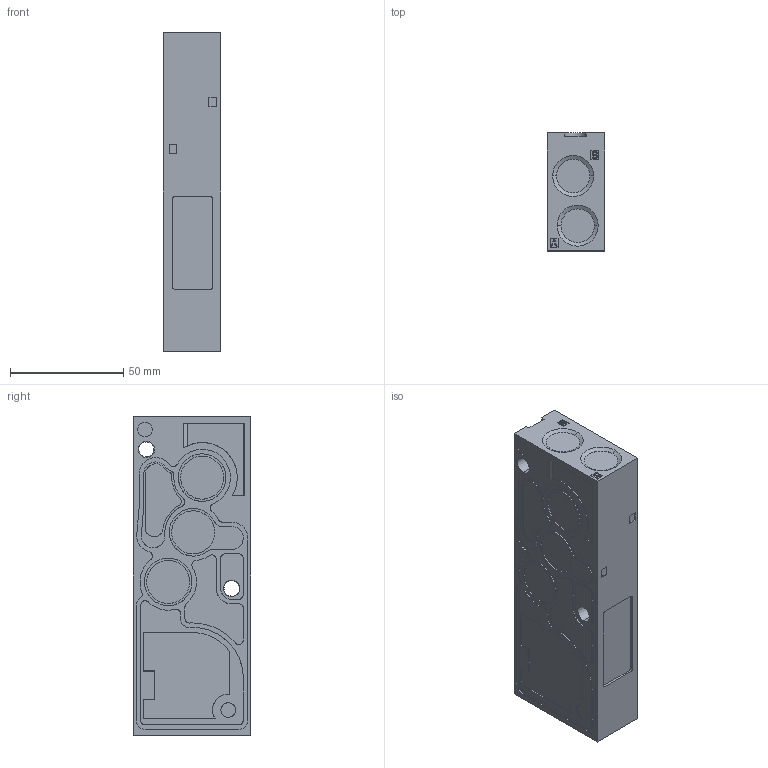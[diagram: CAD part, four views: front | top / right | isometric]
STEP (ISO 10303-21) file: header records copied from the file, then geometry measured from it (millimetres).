
FILE_DESCRIPTION (( 'STEP AP214' ), '1' );
FILE_NAME ('92A-000-C1J.STEP', '2019-08-09T13:08:10', ( '' ), ( '' ), 'SwSTEP 2.0', 'SolidWorks 2014', '' );
FILE_SCHEMA (( 'AUTOMOTIVE_DESIGN' ));
Length unit declared in the file: inch
Products named in the file (2): 92-BASE-C1J; 92A-000-C1J
Assembly tree (1 placements, depth 2):
  92A-000-C1J
    92-BASE-C1J
Bounding box: 25.5 x 52 x 141 mm (x, y, z)
Volume: 178425.5 mm3; surface area: 27661.3 mm2
Topology: 1 solids, 1 shells, 458 faces, 1200 edges, 795 vertices
Faces by surface type: plane 236, cylinder 140, cone 54, bspline 28
Entity records: 25078 total; most frequent: CARTESIAN_POINT 8116, ORIENTED_EDGE 2400, DIRECTION 2049, EDGE_CURVE 1200, VERTEX_POINT 795, LINE 721, VECTOR 721, AXIS2_PLACEMENT_3D 664
